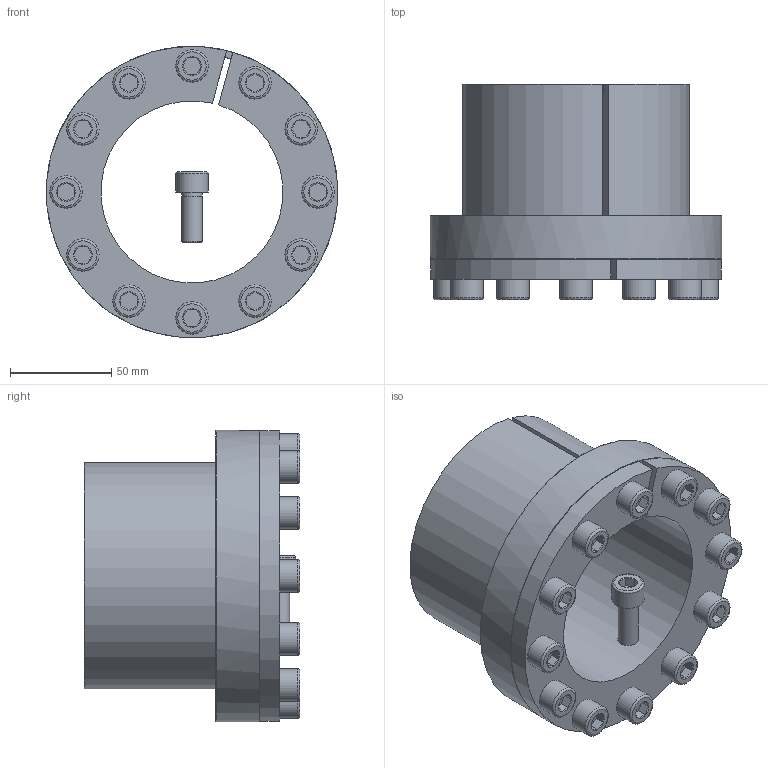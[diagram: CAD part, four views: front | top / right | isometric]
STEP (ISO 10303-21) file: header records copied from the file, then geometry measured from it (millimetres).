
FILE_DESCRIPTION( ( 'Unknown' ), '1' );
FILE_NAME( 'C:/Dokumente und Einstellungen/Sven/Desktop/homepage/cad - homepage/KBS80/KBS 80 - 90 x 112.stp', 'Unknown', ( 'Unknown' ), ( 'Unknown' ), 'XStep 1.0', 'Unknown', ' ' );
FILE_SCHEMA( ( 'automotive_design' ) );
Length unit declared in the file: millimetre
Products named in the file (14): Assem1; KBS 80 - 90 x 112; ISO EN DIN 4762 M10x25; ISO EN DIN 4762 M10x25-oa0; ISO EN DIN 4762 M10x25-oa1; ISO EN DIN 4762 M10x25-oa2; ISO EN DIN 4762 M10x25-oa3; ISO EN DIN 4762 M10x25-oa4; ISO EN DIN 4762 M10x25-oa5; ISO EN DIN 4762 M10x25-oa6; ISO EN DIN 4762 M10x25-oa7; ISO EN DIN 4762 M10x25-oa8; ISO EN DIN 4762 M10x25-oa9; ISO EN DIN 4762 M10x25-oa10
Bounding box: 144 x 106.5 x 144 mm (x, y, z)
Volume: 1093832.3 mm3; surface area: 237300.1 mm2
Topology: 26 solids, 26 shells, 664 faces, 1230 edges, 712 vertices
Faces by surface type: plane 304, cone 182, cylinder 130, torus 48
Full cylindrical faces by diameter (mm): 9 x24, 10 x72, 16 x24, 144 x2
Entity records: 8243 total; most frequent: CARTESIAN_POINT 1741, DIRECTION 1348, ORIENTED_EDGE 978, AXIS2_PLACEMENT_3D 593, EDGE_LOOP 505, EDGE_CURVE 489, FACE_OUTER_BOUND 417, ADVANCED_FACE 332
